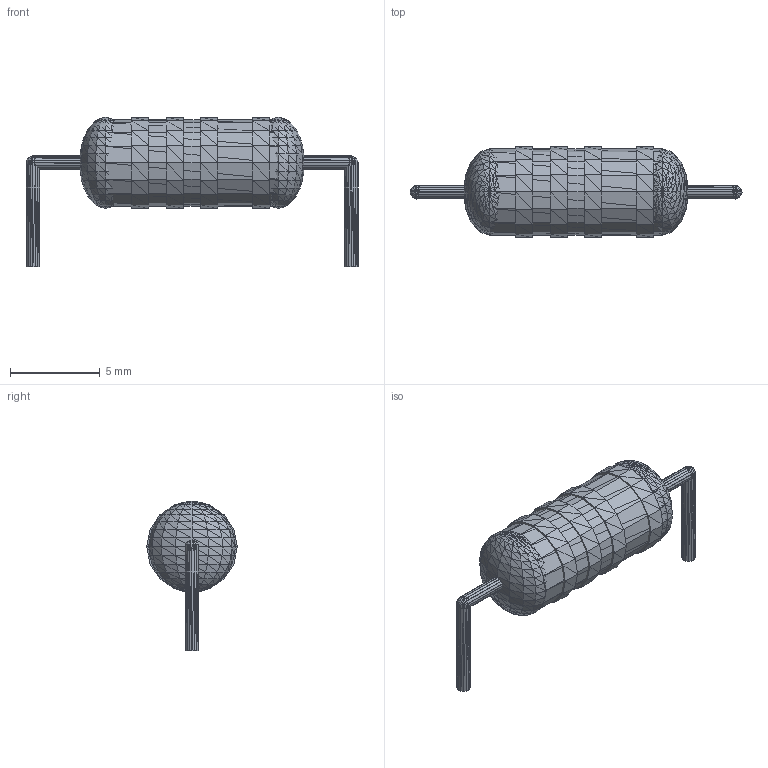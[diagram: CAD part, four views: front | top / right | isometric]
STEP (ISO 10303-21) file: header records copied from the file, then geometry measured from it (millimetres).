
FILE_DESCRIPTION(('HOOPS Exchange Step'),'2;1');
FILE_NAME('***.stp');
FILE_SCHEMA( ('AP242_MANAGED_MODEL_BASED_3D_ENGINEERING_MIM_LF {1 0 10303 442 1 1 4 }') );
Length unit declared in the file: inch
Products named in the file (7): R_1W_68K_2; R_1W_68K_3; R_1W_68K_4; R_1W_68K_5; R_1W_68K_6; R_1W_68K_7; R_1W_68K
Assembly tree (6 placements, depth 2):
  R_1W_68K
    R_1W_68K_2
    R_1W_68K_3
    R_1W_68K_4
    R_1W_68K_5
    R_1W_68K_6
    R_1W_68K_7
Bounding box: 18.53 x 5.07 x 8.33 mm (x, y, z)
Volume: 260.6 mm3; surface area: 590.1 mm2
Topology: 9 solids, 14 shells, 2432 faces, 3612 edges, 1202 vertices
Faces by surface type: plane 2432
Entity records: 47542 total; most frequent: DIRECTION 8504, ORIENTED_EDGE 7296, CARTESIAN_POINT 7260, VECTOR 3612, LINE 3612, EDGE_CURVE 3612, AXIS2_PLACEMENT_3D 2446, PLANE 2432
